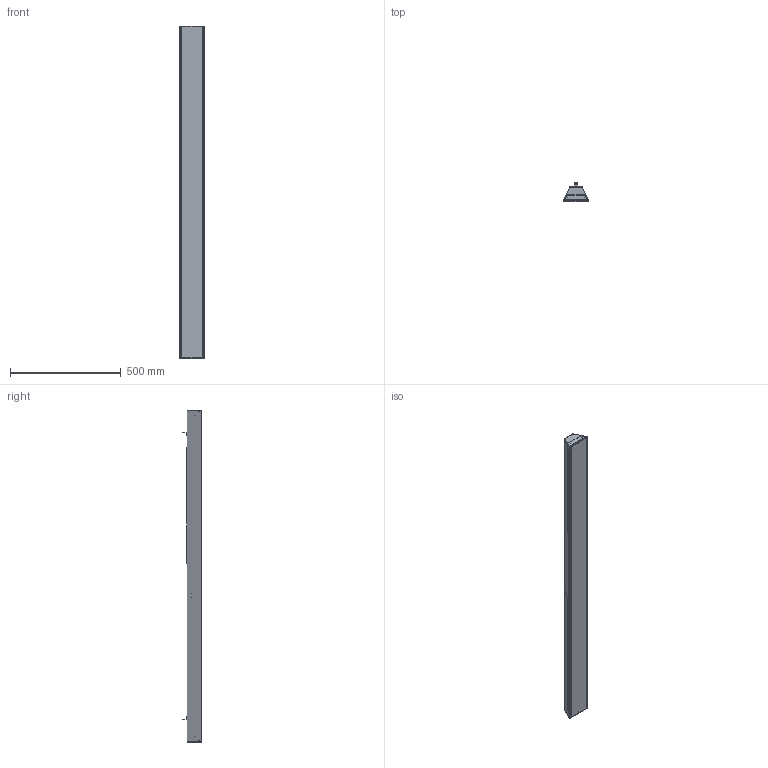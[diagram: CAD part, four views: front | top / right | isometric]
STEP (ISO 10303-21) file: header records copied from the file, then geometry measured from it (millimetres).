
FILE_DESCRIPTION(('STEP AP203'), '1');
FILE_NAME('ÄÑÎ 160 15 - Òðåéä Èíòåãðàë', '', ('UNSPECIFIED'), ('UNSPECIFIED'), 'ASCON STEP Converter 1.6', 'ASCON Math Kernel', '');
FILE_SCHEMA(('CONFIG_CONTROL_DESIGN'));
Length unit declared in the file: millimetre
Products named in the file (12): ДСО 160 15; ДСО 160 15 01 СБ; ДСО 160 15 01; ДСО 160 15 04; DIN 32501; ДСО 160 15 02; ДСО 160 15 02 СБ; ДСО 160 15 06; ДСО 160 15 05; ДСО 160 15 03; CN1-CB-S; ДСО 160 15 08
Assembly tree (15 placements, depth 3):
  ДСО 160 15
    ДСО 160 15 01 СБ
      ДСО 160 15 01
      ДСО 160 15 04
      DIN 32501  x2
    ДСО 160 15 02
    ДСО 160 15 02 СБ  x2
      ДСО 160 15 06
      ДСО 160 15 05
    ДСО 160 15 03
    CN1-CB-S  x2
    ДСО 160 15 08  x2
Bounding box: 114.18 x 86.4 x 1501.2 mm (x, y, z)
Volume: 670212.2 mm3; surface area: 1474135.6 mm2
Topology: 15 solids, 15 shells, 1010 faces, 2476 edges, 1502 vertices
Faces by surface type: plane 802, cylinder 174, bspline 22, cone 10, torus 2
Full cylindrical faces by diameter (mm): 0.5 x8, 0.65 x2, 1 x2, 2.5 x17, 3.5 x32, 4 x6, 4.2 x2, 5 x2, 5.4 x2, 5.5 x2, 6 x2, 6.1 x2, 8 x2, 9 x2, 10 x2, 20 x1
Entity records: 24963 total; most frequent: CARTESIAN_POINT 10114, ORIENTED_EDGE 2906, DIRECTION 2764, EDGE_CURVE 1453, AXIS2_PLACEMENT_3D 939, VERTEX_POINT 923, LINE 886, VECTOR 886
